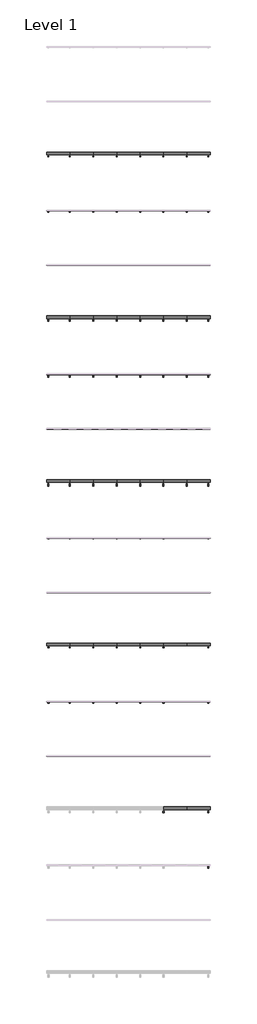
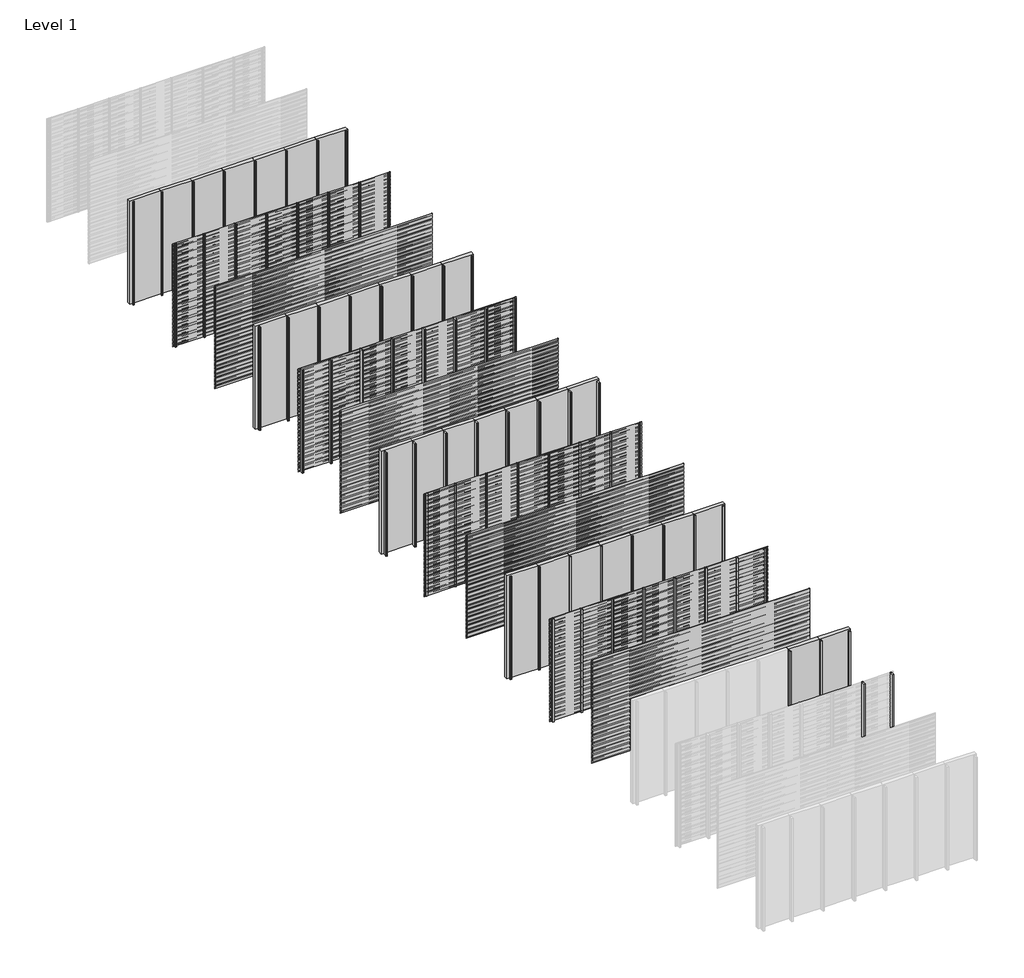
# One storey, part 2 of 96: 69 members, 62 plates.
"""IFC4 building model written with IfcOpenShell, lengths in millimetres."""

from ifc_helpers import new_model, si_unit, origin, origin_with_axes, place, context, project, spatial, polyline, outline, extrude, transform, mapped, element, save
from components import rectangular_mullion_e1f482b2, rectangular_mullion_21e3ddae, rectangular_mullion_fb497acc, rectangular_mullion_3facce28, rectangular_mullion_6cf2c509, rectangular_mullion_8b77bd57, rectangular_mullion_146f339b, rectangular_mullion_aa1047c5, rectangular_mullion_c2c7736a, rectangular_mullion_35b0a916, rectangular_mullion_bd250e2e, rectangular_mullion_7b49c8f1, rectangular_mullion_2b84ad7e, rectangular_mullion_0fd695e7, rectangular_mullion_9b796d85, rectangular_mullion_dfb17e98, rectangular_mullion_8f153c19, empty_system_panel_empty_5c9cbeb2

model = new_model("IFC4")

# Units and contexts
model_context = context("Model", 3, world=origin())
ifc_project = project(units=[si_unit("LENGTHUNIT", "METRE", prefix="MILLI")], contexts=[model_context])

# Site, building, storey
site = spatial("IfcSite", under=ifc_project)
building = spatial("IfcBuilding", under=site)
storey = spatial("IfcBuildingStorey", under=building, Name="Level 1", Elevation=0.0)

# Members
placement = place(None, origin())
rectangular_mullion_shape = rectangular_mullion_e1f482b2(model_context)
element("IfcMember", 1, ObjectType="Rectangular Mullion : NLRS_21_CWM_drager LD.0195_Storax", at=placement, inside=storey, context=model_context, shape_type="MappedRepresentation", body=[
    mapped(rectangular_mullion_shape, transform((5142.8571429, -10000.0, 0.0), x_axis=(-1.0, 0.0, 0.0), y_axis=(0.0, 1.0, 0.0), z_axis=(0.0, 0.0, -1.0))),
])
element("IfcMember", 2, ObjectType="Rectangular Mullion : NLRS_21_CWM_drager LD.0195_Storax", at=placement, inside=storey, context=model_context, shape_type="MappedRepresentation", body=[
    mapped(rectangular_mullion_shape, transform((4285.7142857, -10000.0, 0.0), x_axis=(-1.0, 0.0, 0.0), y_axis=(0.0, 1.0, 0.0), z_axis=(0.0, 0.0, -1.0))),
])
element("IfcMember", 3, ObjectType="Rectangular Mullion : NLRS_21_CWM_drager LD.0195_Storax", at=placement, inside=storey, context=model_context, shape_type="MappedRepresentation", body=[
    mapped(rectangular_mullion_shape, transform((3428.5714286, -10000.0, 0.0), x_axis=(-1.0, 0.0, 0.0), y_axis=(0.0, 1.0, 0.0), z_axis=(0.0, 0.0, -1.0))),
])
element("IfcMember", 4, ObjectType="Rectangular Mullion : NLRS_21_CWM_drager LD.0195_Storax", at=placement, inside=storey, context=model_context, shape_type="MappedRepresentation", body=[
    mapped(rectangular_mullion_shape, transform((2571.4285714, -10000.0, 0.0), x_axis=(-1.0, 0.0, 0.0), y_axis=(0.0, 1.0, 0.0), z_axis=(0.0, 0.0, -1.0))),
])
element("IfcMember", 5, ObjectType="Rectangular Mullion : NLRS_21_CWM_drager LD.0195_Storax", at=placement, inside=storey, context=model_context, shape_type="MappedRepresentation", body=[
    mapped(rectangular_mullion_shape, transform((1714.2857143, -10000.0, 0.0), x_axis=(-1.0, 0.0, 0.0), y_axis=(0.0, 1.0, 0.0), z_axis=(0.0, 0.0, -1.0))),
])
element("IfcMember", 6, ObjectType="Rectangular Mullion : NLRS_21_CWM_drager LD.0195_Storax", at=placement, inside=storey, context=model_context, shape_type="MappedRepresentation", body=[
    mapped(rectangular_mullion_shape, transform((857.1428571, -10000.0, 0.0), x_axis=(-1.0, 0.0, 0.0), y_axis=(0.0, 1.0, 0.0), z_axis=(0.0, 0.0, -1.0))),
])
rectangular_mullion_2_shape = rectangular_mullion_21e3ddae(model_context)
element("IfcMember", 7, ObjectType="Rectangular Mullion : NLRS_21_CWM_drager LD.0460_Storax", at=placement, inside=storey, context=model_context, shape_type="MappedRepresentation", body=[
    mapped(rectangular_mullion_2_shape, transform((5142.8571429, -12000.0, 0.0), x_axis=(-1.0, 0.0, 0.0), y_axis=(0.0, 1.0, 0.0), z_axis=(0.0, 0.0, -1.0))),
])
element("IfcMember", 8, ObjectType="Rectangular Mullion : NLRS_21_CWM_drager LD.0460_Storax", at=placement, inside=storey, context=model_context, shape_type="MappedRepresentation", body=[
    mapped(rectangular_mullion_2_shape, transform((4285.7142857, -12000.0, 0.0), x_axis=(-1.0, 0.0, 0.0), y_axis=(0.0, 1.0, 0.0), z_axis=(0.0, 0.0, -1.0))),
])
element("IfcMember", 9, ObjectType="Rectangular Mullion : NLRS_21_CWM_drager LD.0460_Storax", at=placement, inside=storey, context=model_context, shape_type="MappedRepresentation", body=[
    mapped(rectangular_mullion_2_shape, transform((3428.5714286, -12000.0, 0.0), x_axis=(-1.0, 0.0, 0.0), y_axis=(0.0, 1.0, 0.0), z_axis=(0.0, 0.0, -1.0))),
])
element("IfcMember", 10, ObjectType="Rectangular Mullion : NLRS_21_CWM_drager LD.0460_Storax", at=placement, inside=storey, context=model_context, shape_type="MappedRepresentation", body=[
    mapped(rectangular_mullion_2_shape, transform((2571.4285714, -12000.0, 0.0), x_axis=(-1.0, 0.0, 0.0), y_axis=(0.0, 1.0, 0.0), z_axis=(0.0, 0.0, -1.0))),
])
element("IfcMember", 11, ObjectType="Rectangular Mullion : NLRS_21_CWM_drager LD.0460_Storax", at=placement, inside=storey, context=model_context, shape_type="MappedRepresentation", body=[
    mapped(rectangular_mullion_2_shape, transform((1714.2857143, -12000.0, 0.0), x_axis=(-1.0, 0.0, 0.0), y_axis=(0.0, 1.0, 0.0), z_axis=(0.0, 0.0, -1.0))),
])
element("IfcMember", 12, ObjectType="Rectangular Mullion : NLRS_21_CWM_drager LD.0460_Storax", at=placement, inside=storey, context=model_context, shape_type="MappedRepresentation", body=[
    mapped(rectangular_mullion_2_shape, transform((857.1428571, -12000.0, 0.0), x_axis=(-1.0, 0.0, 0.0), y_axis=(0.0, 1.0, 0.0), z_axis=(0.0, 0.0, -1.0))),
])
element("IfcMember", 13, ObjectType="Rectangular Mullion : NLRS_21_CWM_drager LD.0460_Storax", at=placement, inside=storey, context=model_context, shape_type="MappedRepresentation", body=[
    mapped(rectangular_mullion_2_shape, transform((5142.8571429, -16000.0, 0.0), x_axis=(-1.0, 0.0, 0.0), y_axis=(0.0, 1.0, 0.0), z_axis=(0.0, 0.0, -1.0))),
])
element("IfcMember", 14, ObjectType="Rectangular Mullion : NLRS_21_CWM_drager LD.0460_Storax", at=placement, inside=storey, context=model_context, shape_type="MappedRepresentation", body=[
    mapped(rectangular_mullion_2_shape, transform((4285.7142857, -16000.0, 0.0), x_axis=(-1.0, 0.0, 0.0), y_axis=(0.0, 1.0, 0.0), z_axis=(0.0, 0.0, -1.0))),
])
element("IfcMember", 15, ObjectType="Rectangular Mullion : NLRS_21_CWM_drager LD.0460_Storax", at=placement, inside=storey, context=model_context, shape_type="MappedRepresentation", body=[
    mapped(rectangular_mullion_2_shape, transform((3428.5714286, -16000.0, 0.0), x_axis=(-1.0, 0.0, 0.0), y_axis=(0.0, 1.0, 0.0), z_axis=(0.0, 0.0, -1.0))),
])
element("IfcMember", 16, ObjectType="Rectangular Mullion : NLRS_21_CWM_drager LD.0460_Storax", at=placement, inside=storey, context=model_context, shape_type="MappedRepresentation", body=[
    mapped(rectangular_mullion_2_shape, transform((2571.4285714, -16000.0, 0.0), x_axis=(-1.0, 0.0, 0.0), y_axis=(0.0, 1.0, 0.0), z_axis=(0.0, 0.0, -1.0))),
])
element("IfcMember", 17, ObjectType="Rectangular Mullion : NLRS_21_CWM_drager LD.0460_Storax", at=placement, inside=storey, context=model_context, shape_type="MappedRepresentation", body=[
    mapped(rectangular_mullion_2_shape, transform((1714.2857143, -16000.0, 0.0), x_axis=(-1.0, 0.0, 0.0), y_axis=(0.0, 1.0, 0.0), z_axis=(0.0, 0.0, -1.0))),
])
element("IfcMember", 18, ObjectType="Rectangular Mullion : NLRS_21_CWM_drager LD.0460_Storax", at=placement, inside=storey, context=model_context, shape_type="MappedRepresentation", body=[
    mapped(rectangular_mullion_2_shape, transform((857.1428571, -16000.0, 0.0), x_axis=(-1.0, 0.0, 0.0), y_axis=(0.0, 1.0, 0.0), z_axis=(0.0, 0.0, -1.0))),
])
rectangular_mullion_3_shape = rectangular_mullion_fb497acc(model_context)
element("IfcMember", 19, ObjectType="Rectangular Mullion : NLRS_21_CWM_drager LD.0995_Storax", at=placement, inside=storey, context=model_context, shape_type="MappedRepresentation", body=[
    mapped(rectangular_mullion_3_shape, transform((5142.8571429, -18000.0, 0.0), x_axis=(-1.0, 0.0, 0.0), y_axis=(0.0, 1.0, 0.0), z_axis=(0.0, 0.0, -1.0))),
])
element("IfcMember", 20, ObjectType="Rectangular Mullion : NLRS_21_CWM_drager LD.0995_Storax", at=placement, inside=storey, context=model_context, shape_type="MappedRepresentation", body=[
    mapped(rectangular_mullion_3_shape, transform((4285.7142857, -18000.0, 0.0), x_axis=(-1.0, 0.0, 0.0), y_axis=(0.0, 1.0, 0.0), z_axis=(0.0, 0.0, -1.0))),
])
element("IfcMember", 21, ObjectType="Rectangular Mullion : NLRS_21_CWM_drager LD.0995_Storax", at=placement, inside=storey, context=model_context, shape_type="MappedRepresentation", body=[
    mapped(rectangular_mullion_3_shape, transform((3428.5714286, -18000.0, 0.0), x_axis=(-1.0, 0.0, 0.0), y_axis=(0.0, 1.0, 0.0), z_axis=(0.0, 0.0, -1.0))),
])
element("IfcMember", 22, ObjectType="Rectangular Mullion : NLRS_21_CWM_drager LD.0995_Storax", at=placement, inside=storey, context=model_context, shape_type="MappedRepresentation", body=[
    mapped(rectangular_mullion_3_shape, transform((2571.4285714, -18000.0, 0.0), x_axis=(-1.0, 0.0, 0.0), y_axis=(0.0, 1.0, 0.0), z_axis=(0.0, 0.0, -1.0))),
])
element("IfcMember", 23, ObjectType="Rectangular Mullion : NLRS_21_CWM_drager LD.0995_Storax", at=placement, inside=storey, context=model_context, shape_type="MappedRepresentation", body=[
    mapped(rectangular_mullion_3_shape, transform((1714.2857143, -18000.0, 0.0), x_axis=(-1.0, 0.0, 0.0), y_axis=(0.0, 1.0, 0.0), z_axis=(0.0, 0.0, -1.0))),
])
element("IfcMember", 24, ObjectType="Rectangular Mullion : NLRS_21_CWM_drager LD.0995_Storax", at=placement, inside=storey, context=model_context, shape_type="MappedRepresentation", body=[
    mapped(rectangular_mullion_3_shape, transform((857.1428571, -18000.0, 0.0), x_axis=(-1.0, 0.0, 0.0), y_axis=(0.0, 1.0, 0.0), z_axis=(0.0, 0.0, -1.0))),
])
element("IfcMember", 25, ObjectType="Rectangular Mullion : NLRS_21_CWM_drager LD.0995_Storax", at=placement, inside=storey, context=model_context, shape_type="MappedRepresentation", body=[
    mapped(rectangular_mullion_3_shape, transform((5142.8571429, -22000.0, 0.0), x_axis=(-1.0, 0.0, 0.0), y_axis=(0.0, 1.0, 0.0), z_axis=(0.0, 0.0, -1.0))),
])
element("IfcMember", 26, ObjectType="Rectangular Mullion : NLRS_21_CWM_drager LD.0995_Storax", at=placement, inside=storey, context=model_context, shape_type="MappedRepresentation", body=[
    mapped(rectangular_mullion_3_shape, transform((4285.7142857, -22000.0, 0.0), x_axis=(-1.0, 0.0, 0.0), y_axis=(0.0, 1.0, 0.0), z_axis=(0.0, 0.0, -1.0))),
])
element("IfcMember", 27, ObjectType="Rectangular Mullion : NLRS_21_CWM_drager LD.0995_Storax", at=placement, inside=storey, context=model_context, shape_type="MappedRepresentation", body=[
    mapped(rectangular_mullion_3_shape, transform((3428.5714286, -22000.0, 0.0), x_axis=(-1.0, 0.0, 0.0), y_axis=(0.0, 1.0, 0.0), z_axis=(0.0, 0.0, -1.0))),
])
element("IfcMember", 28, ObjectType="Rectangular Mullion : NLRS_21_CWM_drager LD.0995_Storax", at=placement, inside=storey, context=model_context, shape_type="MappedRepresentation", body=[
    mapped(rectangular_mullion_3_shape, transform((2571.4285714, -22000.0, 0.0), x_axis=(-1.0, 0.0, 0.0), y_axis=(0.0, 1.0, 0.0), z_axis=(0.0, 0.0, -1.0))),
])
element("IfcMember", 29, ObjectType="Rectangular Mullion : NLRS_21_CWM_drager LD.0995_Storax", at=placement, inside=storey, context=model_context, shape_type="MappedRepresentation", body=[
    mapped(rectangular_mullion_3_shape, transform((1714.2857143, -22000.0, 0.0), x_axis=(-1.0, 0.0, 0.0), y_axis=(0.0, 1.0, 0.0), z_axis=(0.0, 0.0, -1.0))),
])
element("IfcMember", 30, ObjectType="Rectangular Mullion : NLRS_21_CWM_drager LD.0995_Storax", at=placement, inside=storey, context=model_context, shape_type="MappedRepresentation", body=[
    mapped(rectangular_mullion_3_shape, transform((857.1428571, -22000.0, 0.0), x_axis=(-1.0, 0.0, 0.0), y_axis=(0.0, 1.0, 0.0), z_axis=(0.0, 0.0, -1.0))),
])
rectangular_mullion_4_shape = rectangular_mullion_3facce28(model_context)
element("IfcMember", 31, ObjectType="Rectangular Mullion : NLRS_21_CWM_drager SD.014_Storax", at=placement, inside=storey, context=model_context, shape_type="MappedRepresentation", body=[
    mapped(rectangular_mullion_4_shape, transform((5142.8571429, -24000.0, 0.0), x_axis=(-1.0, 0.0, 0.0), y_axis=(0.0, 1.0, 0.0), z_axis=(0.0, 0.0, -1.0))),
])
element("IfcMember", 32, ObjectType="Rectangular Mullion : NLRS_21_CWM_drager SD.014_Storax", at=placement, inside=storey, context=model_context, shape_type="MappedRepresentation", body=[
    mapped(rectangular_mullion_4_shape, transform((4285.7142857, -24000.0, 0.0), x_axis=(-1.0, 0.0, 0.0), y_axis=(0.0, 1.0, 0.0), z_axis=(0.0, 0.0, -1.0))),
])
element("IfcMember", 33, ObjectType="Rectangular Mullion : NLRS_21_CWM_drager SD.014_Storax", at=placement, inside=storey, context=model_context, shape_type="MappedRepresentation", body=[
    mapped(rectangular_mullion_4_shape, transform((3428.5714286, -24000.0, 0.0), x_axis=(-1.0, 0.0, 0.0), y_axis=(0.0, 1.0, 0.0), z_axis=(0.0, 0.0, -1.0))),
])
element("IfcMember", 34, ObjectType="Rectangular Mullion : NLRS_21_CWM_drager SD.014_Storax", at=placement, inside=storey, context=model_context, shape_type="MappedRepresentation", body=[
    mapped(rectangular_mullion_4_shape, transform((2571.4285714, -24000.0, 0.0), x_axis=(-1.0, 0.0, 0.0), y_axis=(0.0, 1.0, 0.0), z_axis=(0.0, 0.0, -1.0))),
])
element("IfcMember", 35, ObjectType="Rectangular Mullion : NLRS_21_CWM_drager SD.014_Storax", at=placement, inside=storey, context=model_context, shape_type="MappedRepresentation", body=[
    mapped(rectangular_mullion_4_shape, transform((1714.2857143, -24000.0, 0.0), x_axis=(-1.0, 0.0, 0.0), y_axis=(0.0, 1.0, 0.0), z_axis=(0.0, 0.0, -1.0))),
])
element("IfcMember", 36, ObjectType="Rectangular Mullion : NLRS_21_CWM_drager SD.014_Storax", at=placement, inside=storey, context=model_context, shape_type="MappedRepresentation", body=[
    mapped(rectangular_mullion_4_shape, transform((857.1428571, -24000.0, 0.0), x_axis=(-1.0, 0.0, 0.0), y_axis=(0.0, 1.0, 0.0), z_axis=(0.0, 0.0, -1.0))),
])
element("IfcMember", 37, ObjectType="Rectangular Mullion : NLRS_21_CWM_drager SD.014_Storax", at=placement, inside=storey, context=model_context, shape_type="MappedRepresentation", body=[
    mapped(rectangular_mullion_4_shape, transform((5142.8571429, -28000.0, 0.0), x_axis=(-1.0, 0.0, 0.0), y_axis=(0.0, 1.0, 0.0), z_axis=(0.0, 0.0, -1.0))),
])
element("IfcMember", 38, ObjectType="Rectangular Mullion : NLRS_21_CWM_drager SD.014_Storax", at=placement, inside=storey, context=model_context, shape_type="MappedRepresentation", body=[
    mapped(rectangular_mullion_4_shape, transform((4285.7142857, -28000.0, 0.0), x_axis=(-1.0, 0.0, 0.0), y_axis=(0.0, 1.0, 0.0), z_axis=(0.0, 0.0, -1.0))),
])
element("IfcMember", 39, ObjectType="Rectangular Mullion : NLRS_21_CWM_drager SD.014_Storax", at=placement, inside=storey, context=model_context, shape_type="MappedRepresentation", body=[
    mapped(rectangular_mullion_4_shape, transform((3428.5714286, -28000.0, 0.0), x_axis=(-1.0, 0.0, 0.0), y_axis=(0.0, 1.0, 0.0), z_axis=(0.0, 0.0, -1.0))),
])
element("IfcMember", 40, ObjectType="Rectangular Mullion : NLRS_21_CWM_drager SD.014_Storax", at=placement, inside=storey, context=model_context, shape_type="MappedRepresentation", body=[
    mapped(rectangular_mullion_4_shape, transform((2571.4285714, -28000.0, 0.0), x_axis=(-1.0, 0.0, 0.0), y_axis=(0.0, 1.0, 0.0), z_axis=(0.0, 0.0, -1.0))),
])
element("IfcMember", 41, ObjectType="Rectangular Mullion : NLRS_21_CWM_drager SD.014_Storax", at=placement, inside=storey, context=model_context, shape_type="MappedRepresentation", body=[
    mapped(rectangular_mullion_4_shape, transform((1714.2857143, -28000.0, 0.0), x_axis=(-1.0, 0.0, 0.0), y_axis=(0.0, 1.0, 0.0), z_axis=(0.0, 0.0, -1.0))),
])
element("IfcMember", 42, ObjectType="Rectangular Mullion : NLRS_21_CWM_drager SD.014_Storax", at=placement, inside=storey, context=model_context, shape_type="MappedRepresentation", body=[
    mapped(rectangular_mullion_4_shape, transform((857.1428571, -28000.0, 0.0), x_axis=(-1.0, 0.0, 0.0), y_axis=(0.0, 1.0, 0.0), z_axis=(0.0, 0.0, -1.0))),
])
rectangular_mullion_5_shape = rectangular_mullion_6cf2c509(model_context)
element("IfcMember", 43, ObjectType="Rectangular Mullion : NLRS_21_CWM_drager SD.054_Storax", at=placement, inside=storey, context=model_context, shape_type="MappedRepresentation", body=[
    mapped(rectangular_mullion_5_shape, transform((5142.8571429, -30000.0, 0.0), x_axis=(-1.0, 0.0, 0.0), y_axis=(0.0, 1.0, 0.0), z_axis=(0.0, 0.0, -1.0))),
])
element("IfcMember", 44, ObjectType="Rectangular Mullion : NLRS_21_CWM_drager SD.054_Storax", at=placement, inside=storey, context=model_context, shape_type="MappedRepresentation", body=[
    mapped(rectangular_mullion_5_shape, transform((4285.7142857, -30000.0, 0.0), x_axis=(-1.0, 0.0, 0.0), y_axis=(0.0, 1.0, 0.0), z_axis=(0.0, 0.0, -1.0))),
])
element("IfcMember", 45, ObjectType="Rectangular Mullion : NLRS_21_CWM_drager SD.054_Storax", at=placement, inside=storey, context=model_context, shape_type="MappedRepresentation", body=[
    mapped(rectangular_mullion_5_shape, transform((3428.5714286, -30000.0, 0.0), x_axis=(-1.0, 0.0, 0.0), y_axis=(0.0, 1.0, 0.0), z_axis=(0.0, 0.0, -1.0))),
])
element("IfcMember", 46, ObjectType="Rectangular Mullion : NLRS_21_CWM_drager SD.054_Storax", at=placement, inside=storey, context=model_context, shape_type="MappedRepresentation", body=[
    mapped(rectangular_mullion_5_shape, transform((2571.4285714, -30000.0, 0.0), x_axis=(-1.0, 0.0, 0.0), y_axis=(0.0, 1.0, 0.0), z_axis=(0.0, 0.0, -1.0))),
])
element("IfcMember", 47, ObjectType="Rectangular Mullion : NLRS_21_CWM_drager SD.054_Storax", at=placement, inside=storey, context=model_context, shape_type="MappedRepresentation", body=[
    mapped(rectangular_mullion_5_shape, transform((1714.2857143, -30000.0, 0.0), x_axis=(-1.0, 0.0, 0.0), y_axis=(0.0, 1.0, 0.0), z_axis=(0.0, 0.0, -1.0))),
])
element("IfcMember", 48, ObjectType="Rectangular Mullion : NLRS_21_CWM_drager SD.054_Storax", at=placement, inside=storey, context=model_context, shape_type="MappedRepresentation", body=[
    mapped(rectangular_mullion_5_shape, transform((857.1428571, -30000.0, 0.0), x_axis=(-1.0, 0.0, 0.0), y_axis=(0.0, 1.0, 0.0), z_axis=(0.0, 0.0, -1.0))),
])
element("IfcMember", 49, ObjectType="Rectangular Mullion : NLRS_21_CWM_drager SD.054_Storax", at=placement, inside=storey, context=model_context, shape_type="MappedRepresentation", body=[
    mapped(rectangular_mullion_5_shape, transform((5142.8571429, -34000.0, 0.0), x_axis=(-1.0, 0.0, 0.0), y_axis=(0.0, 1.0, 0.0), z_axis=(0.0, 0.0, -1.0))),
])
element("IfcMember", 50, ObjectType="Rectangular Mullion : NLRS_21_CWM_drager SD.054_Storax", at=placement, inside=storey, context=model_context, shape_type="MappedRepresentation", body=[
    mapped(rectangular_mullion_5_shape, transform((4285.7142857, -34000.0, 0.0), x_axis=(-1.0, 0.0, 0.0), y_axis=(0.0, 1.0, 0.0), z_axis=(0.0, 0.0, -1.0))),
])
rectangular_mullion_6_shape = rectangular_mullion_8b77bd57(model_context)
element("IfcMember", 51, ObjectType="Rectangular Mullion : NLRS_21_CWM_drager SD.100_Storax", at=placement, inside=storey, context=model_context, shape_type="MappedRepresentation", body=[
    mapped(rectangular_mullion_6_shape, transform((5142.8571429, -36000.0, 0.0), x_axis=(-1.0, 0.0, 0.0), y_axis=(0.0, 1.0, 0.0), z_axis=(0.0, 0.0, -1.0))),
])
rectangular_mullion_7_shape = rectangular_mullion_146f339b(model_context)
element("IfcMember", 52, ObjectType="Rectangular Mullion : NLRS_21_CWM_drager LD.0195 - links_Storax", at=placement, inside=storey, context=model_context, shape_type="MappedRepresentation", body=[
    mapped(rectangular_mullion_7_shape, transform((0.0, -10000.0, 0.0), x_axis=(-1.0, 0.0, 0.0), y_axis=(0.0, 1.0, 0.0), z_axis=(0.0, 0.0, -1.0))),
])
rectangular_mullion_8_shape = rectangular_mullion_aa1047c5(model_context)
element("IfcMember", 53, ObjectType="Rectangular Mullion : NLRS_21_CWM_drager LD.0195 - rechts_Storax", at=placement, inside=storey, context=model_context, shape_type="MappedRepresentation", body=[
    mapped(rectangular_mullion_8_shape, transform((6000.0, -10000.0, 3000.0), x_axis=(1.0, 0.0, 0.0), y_axis=(0.0, 1.0, 0.0), z_axis=(0.0, 0.0, 1.0))),
])
rectangular_mullion_9_shape = rectangular_mullion_c2c7736a(model_context)
element("IfcMember", 54, ObjectType="Rectangular Mullion : NLRS_21_CWM_drager LD.0460 - links_Storax", at=placement, inside=storey, context=model_context, shape_type="MappedRepresentation", body=[
    mapped(rectangular_mullion_9_shape, transform((0.0, -12000.0, 0.0), x_axis=(-1.0, 0.0, 0.0), y_axis=(0.0, 1.0, 0.0), z_axis=(0.0, 0.0, -1.0))),
])
element("IfcMember", 55, ObjectType="Rectangular Mullion : NLRS_21_CWM_drager LD.0460 - links_Storax", at=placement, inside=storey, context=model_context, shape_type="MappedRepresentation", body=[
    mapped(rectangular_mullion_9_shape, transform((0.0, -16000.0, 0.0), x_axis=(-1.0, 0.0, 0.0), y_axis=(0.0, 1.0, 0.0), z_axis=(0.0, 0.0, -1.0))),
])
rectangular_mullion_10_shape = rectangular_mullion_35b0a916(model_context)
element("IfcMember", 56, ObjectType="Rectangular Mullion : NLRS_21_CWM_drager LD.0460 - rechts_Storax", at=placement, inside=storey, context=model_context, shape_type="MappedRepresentation", body=[
    mapped(rectangular_mullion_10_shape, transform((6000.0, -12000.0, 3000.0), x_axis=(1.0, 0.0, 0.0), y_axis=(0.0, 1.0, 0.0), z_axis=(0.0, 0.0, 1.0))),
])
element("IfcMember", 57, ObjectType="Rectangular Mullion : NLRS_21_CWM_drager LD.0460 - rechts_Storax", at=placement, inside=storey, context=model_context, shape_type="MappedRepresentation", body=[
    mapped(rectangular_mullion_10_shape, transform((6000.0, -16000.0, 3000.0), x_axis=(1.0, 0.0, 0.0), y_axis=(0.0, 1.0, 0.0), z_axis=(0.0, 0.0, 1.0))),
])
rectangular_mullion_11_shape = rectangular_mullion_bd250e2e(model_context)
element("IfcMember", 58, ObjectType="Rectangular Mullion : NLRS_21_CWM_drager LD.0995 - links_Storax", at=placement, inside=storey, context=model_context, shape_type="MappedRepresentation", body=[
    mapped(rectangular_mullion_11_shape, transform((0.0, -18000.0, 0.0), x_axis=(-1.0, 0.0, 0.0), y_axis=(0.0, 1.0, 0.0), z_axis=(0.0, 0.0, -1.0))),
])
element("IfcMember", 59, ObjectType="Rectangular Mullion : NLRS_21_CWM_drager LD.0995 - links_Storax", at=placement, inside=storey, context=model_context, shape_type="MappedRepresentation", body=[
    mapped(rectangular_mullion_11_shape, transform((0.0, -22000.0, 0.0), x_axis=(-1.0, 0.0, 0.0), y_axis=(0.0, 1.0, 0.0), z_axis=(0.0, 0.0, -1.0))),
])
rectangular_mullion_12_shape = rectangular_mullion_7b49c8f1(model_context)
element("IfcMember", 60, ObjectType="Rectangular Mullion : NLRS_21_CWM_drager LD.0995 - rechts_Storax", at=placement, inside=storey, context=model_context, shape_type="MappedRepresentation", body=[
    mapped(rectangular_mullion_12_shape, transform((6000.0, -18000.0, 3000.0), x_axis=(1.0, 0.0, 0.0), y_axis=(0.0, 1.0, 0.0), z_axis=(0.0, 0.0, 1.0))),
])
element("IfcMember", 61, ObjectType="Rectangular Mullion : NLRS_21_CWM_drager LD.0995 - rechts_Storax", at=placement, inside=storey, context=model_context, shape_type="MappedRepresentation", body=[
    mapped(rectangular_mullion_12_shape, transform((6000.0, -22000.0, 3000.0), x_axis=(1.0, 0.0, 0.0), y_axis=(0.0, 1.0, 0.0), z_axis=(0.0, 0.0, 1.0))),
])
rectangular_mullion_13_shape = rectangular_mullion_2b84ad7e(model_context)
element("IfcMember", 62, ObjectType="Rectangular Mullion : NLRS_21_CWM_drager SD.014 - links_Storax", at=placement, inside=storey, context=model_context, shape_type="MappedRepresentation", body=[
    mapped(rectangular_mullion_13_shape, transform((0.0, -24000.0, 0.0), x_axis=(-1.0, 0.0, 0.0), y_axis=(0.0, 1.0, 0.0), z_axis=(0.0, 0.0, -1.0))),
])
element("IfcMember", 63, ObjectType="Rectangular Mullion : NLRS_21_CWM_drager SD.014 - links_Storax", at=placement, inside=storey, context=model_context, shape_type="MappedRepresentation", body=[
    mapped(rectangular_mullion_13_shape, transform((0.0, -28000.0, 0.0), x_axis=(-1.0, 0.0, 0.0), y_axis=(0.0, 1.0, 0.0), z_axis=(0.0, 0.0, -1.0))),
])
rectangular_mullion_14_shape = rectangular_mullion_0fd695e7(model_context)
element("IfcMember", 64, ObjectType="Rectangular Mullion : NLRS_21_CWM_drager SD.014 - rechts_Storax", at=placement, inside=storey, context=model_context, shape_type="MappedRepresentation", body=[
    mapped(rectangular_mullion_14_shape, transform((6000.0, -24000.0, 3000.0), x_axis=(1.0, 0.0, 0.0), y_axis=(0.0, 1.0, 0.0), z_axis=(0.0, 0.0, 1.0))),
])
element("IfcMember", 65, ObjectType="Rectangular Mullion : NLRS_21_CWM_drager SD.014 - rechts_Storax", at=placement, inside=storey, context=model_context, shape_type="MappedRepresentation", body=[
    mapped(rectangular_mullion_14_shape, transform((6000.0, -28000.0, 3000.0), x_axis=(1.0, 0.0, 0.0), y_axis=(0.0, 1.0, 0.0), z_axis=(0.0, 0.0, 1.0))),
])
rectangular_mullion_15_shape = rectangular_mullion_9b796d85(model_context)
element("IfcMember", 66, ObjectType="Rectangular Mullion : NLRS_21_CWM_drager SD.054 - links_Storax", at=placement, inside=storey, context=model_context, shape_type="MappedRepresentation", body=[
    mapped(rectangular_mullion_15_shape, transform((0.0, -30000.0, 0.0), x_axis=(-1.0, 0.0, 0.0), y_axis=(0.0, 1.0, 0.0), z_axis=(0.0, 0.0, -1.0))),
])
rectangular_mullion_16_shape = rectangular_mullion_dfb17e98(model_context)
element("IfcMember", 67, ObjectType="Rectangular Mullion : NLRS_21_CWM_drager SD.054 - rechts_Storax", at=placement, inside=storey, context=model_context, shape_type="MappedRepresentation", body=[
    mapped(rectangular_mullion_16_shape, transform((6000.0, -30000.0, 3000.0), x_axis=(1.0, 0.0, 0.0), y_axis=(0.0, 1.0, 0.0), z_axis=(0.0, 0.0, 1.0))),
])
element("IfcMember", 68, ObjectType="Rectangular Mullion : NLRS_21_CWM_drager SD.054 - rechts_Storax", at=placement, inside=storey, context=model_context, shape_type="MappedRepresentation", body=[
    mapped(rectangular_mullion_16_shape, transform((6000.0, -34000.0, 3000.0), x_axis=(1.0, 0.0, 0.0), y_axis=(0.0, 1.0, 0.0), z_axis=(0.0, 0.0, 1.0))),
])
rectangular_mullion_17_shape = rectangular_mullion_8f153c19(model_context)
element("IfcMember", 69, ObjectType="Rectangular Mullion : NLRS_21_CWM_drager SD.100 - rechts_Storax", at=placement, inside=storey, context=model_context, shape_type="MappedRepresentation", body=[
    mapped(rectangular_mullion_17_shape, transform((6000.0, -36000.0, 3000.0), x_axis=(1.0, 0.0, 0.0), y_axis=(0.0, 1.0, 0.0), z_axis=(0.0, 0.0, 1.0))),
])

# Plates
element("IfcPlate", 70, ObjectType="NLRS_21_WA_lamellenwand Linius - L.033.08_Storax", at=placement, inside=storey, context=model_context, shape_type="SweptSolid", body=[
    extrude(outline(polyline([(0.0, -11999.0), (857.1428571, -11999.0), (857.1428571, -12001.0), (0.0, -12001.0), (0.0, -11999.0)])), origin_with_axes(), (0.0, 0.0, 1.0), 3000.0),
])
element("IfcPlate", 71, ObjectType="NLRS_21_WA_lamellenwand Linius - L.033.08_Storax", at=placement, inside=storey, context=model_context, shape_type="SweptSolid", body=[
    extrude(outline(polyline([(857.1428571, -11999.0), (1714.2857143, -11999.0), (1714.2857143, -12001.0), (857.1428571, -12001.0), (857.1428571, -11999.0)])), origin_with_axes(), (0.0, 0.0, 1.0), 3000.0),
])
element("IfcPlate", 72, ObjectType="NLRS_21_WA_lamellenwand Linius - L.033.08_Storax", at=placement, inside=storey, context=model_context, shape_type="SweptSolid", body=[
    extrude(outline(polyline([(1714.2857143, -11999.0), (2571.4285714, -11999.0), (2571.4285714, -12001.0), (1714.2857143, -12001.0), (1714.2857143, -11999.0)])), origin_with_axes(), (0.0, 0.0, 1.0), 3000.0),
])
element("IfcPlate", 73, ObjectType="NLRS_21_WA_lamellenwand Linius - L.033.08_Storax", at=placement, inside=storey, context=model_context, shape_type="SweptSolid", body=[
    extrude(outline(polyline([(2571.4285714, -11999.0), (3428.5714286, -11999.0), (3428.5714286, -12001.0), (2571.4285714, -12001.0), (2571.4285714, -11999.0)])), origin_with_axes(), (0.0, 0.0, 1.0), 3000.0),
])
element("IfcPlate", 74, ObjectType="NLRS_21_WA_lamellenwand Linius - L.033.08_Storax", at=placement, inside=storey, context=model_context, shape_type="SweptSolid", body=[
    extrude(outline(polyline([(3428.5714286, -11999.0), (4285.7142857, -11999.0), (4285.7142857, -12001.0), (3428.5714286, -12001.0), (3428.5714286, -11999.0)])), origin_with_axes(), (0.0, 0.0, 1.0), 3000.0),
])
element("IfcPlate", 75, ObjectType="NLRS_21_WA_lamellenwand Linius - L.033.08_Storax", at=placement, inside=storey, context=model_context, shape_type="SweptSolid", body=[
    extrude(outline(polyline([(4285.7142857, -11999.0), (5142.8571429, -11999.0), (5142.8571429, -12001.0), (4285.7142857, -12001.0), (4285.7142857, -11999.0)])), origin_with_axes(), (0.0, 0.0, 1.0), 3000.0),
])
element("IfcPlate", 76, ObjectType="NLRS_21_WA_lamellenwand Linius - L.033.08_Storax", at=placement, inside=storey, context=model_context, shape_type="SweptSolid", body=[
    extrude(outline(polyline([(5142.8571429, -11999.0), (6000.0, -11999.0), (6000.0, -12001.0), (5142.8571429, -12001.0), (5142.8571429, -11999.0)])), origin_with_axes(), (0.0, 0.0, 1.0), 3000.0),
])
element("IfcPlate", 77, ObjectType="NLRS_21_WA_lamellenwand Linius - L.033.08_Storax", at=placement, inside=storey, context=model_context, shape_type="SweptSolid", body=[
    extrude(outline(polyline([(0.0, -13999.0), (6000.0, -13999.0), (6000.0, -14001.0), (0.0, -14001.0), (0.0, -13999.0)])), origin_with_axes(), (0.0, 0.0, 1.0), 3000.0),
])
element("IfcPlate", 78, ObjectType="NLRS_21_WA_lamellenwand Linius - L.033.08_Storax", at=placement, inside=storey, context=model_context, shape_type="SweptSolid", body=[
    extrude(outline(polyline([(0.0, -17999.0), (857.1428571, -17999.0), (857.1428571, -18001.0), (0.0, -18001.0), (0.0, -17999.0)])), origin_with_axes(), (0.0, 0.0, 1.0), 3000.0),
])
element("IfcPlate", 79, ObjectType="NLRS_21_WA_lamellenwand Linius - L.033.08_Storax", at=placement, inside=storey, context=model_context, shape_type="SweptSolid", body=[
    extrude(outline(polyline([(857.1428571, -17999.0), (1714.2857143, -17999.0), (1714.2857143, -18001.0), (857.1428571, -18001.0), (857.1428571, -17999.0)])), origin_with_axes(), (0.0, 0.0, 1.0), 3000.0),
])
element("IfcPlate", 80, ObjectType="NLRS_21_WA_lamellenwand Linius - L.033.08_Storax", at=placement, inside=storey, context=model_context, shape_type="SweptSolid", body=[
    extrude(outline(polyline([(1714.2857143, -17999.0), (2571.4285714, -17999.0), (2571.4285714, -18001.0), (1714.2857143, -18001.0), (1714.2857143, -17999.0)])), origin_with_axes(), (0.0, 0.0, 1.0), 3000.0),
])
element("IfcPlate", 81, ObjectType="NLRS_21_WA_lamellenwand Linius - L.033.08_Storax", at=placement, inside=storey, context=model_context, shape_type="SweptSolid", body=[
    extrude(outline(polyline([(2571.4285714, -17999.0), (3428.5714286, -17999.0), (3428.5714286, -18001.0), (2571.4285714, -18001.0), (2571.4285714, -17999.0)])), origin_with_axes(), (0.0, 0.0, 1.0), 3000.0),
])
element("IfcPlate", 82, ObjectType="NLRS_21_WA_lamellenwand Linius - L.033.08_Storax", at=placement, inside=storey, context=model_context, shape_type="SweptSolid", body=[
    extrude(outline(polyline([(3428.5714286, -17999.0), (4285.7142857, -17999.0), (4285.7142857, -18001.0), (3428.5714286, -18001.0), (3428.5714286, -17999.0)])), origin_with_axes(), (0.0, 0.0, 1.0), 3000.0),
])
element("IfcPlate", 83, ObjectType="NLRS_21_WA_lamellenwand Linius - L.033.08_Storax", at=placement, inside=storey, context=model_context, shape_type="SweptSolid", body=[
    extrude(outline(polyline([(4285.7142857, -17999.0), (5142.8571429, -17999.0), (5142.8571429, -18001.0), (4285.7142857, -18001.0), (4285.7142857, -17999.0)])), origin_with_axes(), (0.0, 0.0, 1.0), 3000.0),
])
element("IfcPlate", 84, ObjectType="NLRS_21_WA_lamellenwand Linius - L.033.08_Storax", at=placement, inside=storey, context=model_context, shape_type="SweptSolid", body=[
    extrude(outline(polyline([(5142.8571429, -17999.0), (6000.0, -17999.0), (6000.0, -18001.0), (5142.8571429, -18001.0), (5142.8571429, -17999.0)])), origin_with_axes(), (0.0, 0.0, 1.0), 3000.0),
])
element("IfcPlate", 85, ObjectType="NLRS_21_WA_lamellenwand Linius - L.033.08_Storax", at=placement, inside=storey, context=model_context, shape_type="SweptSolid", body=[
    extrude(outline(polyline([(0.0, -19999.0), (6000.0, -19999.0), (6000.0, -20001.0), (0.0, -20001.0), (0.0, -19999.0)])), origin_with_axes(), (0.0, 0.0, 1.0), 3000.0),
])
element("IfcPlate", 86, ObjectType="NLRS_21_WA_lamellenwand Linius - L.033.08_Storax", at=placement, inside=storey, context=model_context, shape_type="SweptSolid", body=[
    extrude(outline(polyline([(0.0, -23999.0), (857.1428571, -23999.0), (857.1428571, -24001.0), (0.0, -24001.0), (0.0, -23999.0)])), origin_with_axes(), (0.0, 0.0, 1.0), 3000.0),
])
element("IfcPlate", 87, ObjectType="NLRS_21_WA_lamellenwand Linius - L.033.08_Storax", at=placement, inside=storey, context=model_context, shape_type="SweptSolid", body=[
    extrude(outline(polyline([(857.1428571, -23999.0), (1714.2857143, -23999.0), (1714.2857143, -24001.0), (857.1428571, -24001.0), (857.1428571, -23999.0)])), origin_with_axes(), (0.0, 0.0, 1.0), 3000.0),
])
element("IfcPlate", 88, ObjectType="NLRS_21_WA_lamellenwand Linius - L.033.08_Storax", at=placement, inside=storey, context=model_context, shape_type="SweptSolid", body=[
    extrude(outline(polyline([(1714.2857143, -23999.0), (2571.4285714, -23999.0), (2571.4285714, -24001.0), (1714.2857143, -24001.0), (1714.2857143, -23999.0)])), origin_with_axes(), (0.0, 0.0, 1.0), 3000.0),
])
element("IfcPlate", 89, ObjectType="NLRS_21_WA_lamellenwand Linius - L.033.08_Storax", at=placement, inside=storey, context=model_context, shape_type="SweptSolid", body=[
    extrude(outline(polyline([(2571.4285714, -23999.0), (3428.5714286, -23999.0), (3428.5714286, -24001.0), (2571.4285714, -24001.0), (2571.4285714, -23999.0)])), origin_with_axes(), (0.0, 0.0, 1.0), 3000.0),
])
element("IfcPlate", 90, ObjectType="NLRS_21_WA_lamellenwand Linius - L.033.08_Storax", at=placement, inside=storey, context=model_context, shape_type="SweptSolid", body=[
    extrude(outline(polyline([(3428.5714286, -23999.0), (4285.7142857, -23999.0), (4285.7142857, -24001.0), (3428.5714286, -24001.0), (3428.5714286, -23999.0)])), origin_with_axes(), (0.0, 0.0, 1.0), 3000.0),
])
element("IfcPlate", 91, ObjectType="NLRS_21_WA_lamellenwand Linius - L.033.08_Storax", at=placement, inside=storey, context=model_context, shape_type="SweptSolid", body=[
    extrude(outline(polyline([(4285.7142857, -23999.0), (5142.8571429, -23999.0), (5142.8571429, -24001.0), (4285.7142857, -24001.0), (4285.7142857, -23999.0)])), origin_with_axes(), (0.0, 0.0, 1.0), 3000.0),
])
element("IfcPlate", 92, ObjectType="NLRS_21_WA_lamellenwand Linius - L.033.08_Storax", at=placement, inside=storey, context=model_context, shape_type="SweptSolid", body=[
    extrude(outline(polyline([(5142.8571429, -23999.0), (6000.0, -23999.0), (6000.0, -24001.0), (5142.8571429, -24001.0), (5142.8571429, -23999.0)])), origin_with_axes(), (0.0, 0.0, 1.0), 3000.0),
])
element("IfcPlate", 93, ObjectType="NLRS_21_WA_lamellenwand Linius - L.033.08_Storax", at=placement, inside=storey, context=model_context, shape_type="SweptSolid", body=[
    extrude(outline(polyline([(0.0, -25999.0), (6000.0, -25999.0), (6000.0, -26001.0), (0.0, -26001.0), (0.0, -25999.0)])), origin_with_axes(), (0.0, 0.0, 1.0), 3000.0),
])
element("IfcPlate", 94, ObjectType="NLRS_21_WA_lamellenwand Linius - L.033.08_Storax", at=placement, inside=storey, context=model_context, shape_type="SweptSolid", body=[
    extrude(outline(polyline([(0.0, -29999.0), (857.1428571, -29999.0), (857.1428571, -30001.0), (0.0, -30001.0), (0.0, -29999.0)])), origin_with_axes(), (0.0, 0.0, 1.0), 3000.0),
])
element("IfcPlate", 95, ObjectType="NLRS_21_WA_lamellenwand Linius - L.033.08_Storax", at=placement, inside=storey, context=model_context, shape_type="SweptSolid", body=[
    extrude(outline(polyline([(857.1428571, -29999.0), (1714.2857143, -29999.0), (1714.2857143, -30001.0), (857.1428571, -30001.0), (857.1428571, -29999.0)])), origin_with_axes(), (0.0, 0.0, 1.0), 3000.0),
])
element("IfcPlate", 96, ObjectType="NLRS_21_WA_lamellenwand Linius - L.033.08_Storax", at=placement, inside=storey, context=model_context, shape_type="SweptSolid", body=[
    extrude(outline(polyline([(1714.2857143, -29999.0), (2571.4285714, -29999.0), (2571.4285714, -30001.0), (1714.2857143, -30001.0), (1714.2857143, -29999.0)])), origin_with_axes(), (0.0, 0.0, 1.0), 3000.0),
])
element("IfcPlate", 97, ObjectType="NLRS_21_WA_lamellenwand Linius - L.033.08_Storax", at=placement, inside=storey, context=model_context, shape_type="SweptSolid", body=[
    extrude(outline(polyline([(2571.4285714, -29999.0), (3428.5714286, -29999.0), (3428.5714286, -30001.0), (2571.4285714, -30001.0), (2571.4285714, -29999.0)])), origin_with_axes(), (0.0, 0.0, 1.0), 3000.0),
])
element("IfcPlate", 98, ObjectType="NLRS_21_WA_lamellenwand Linius - L.033.08_Storax", at=placement, inside=storey, context=model_context, shape_type="SweptSolid", body=[
    extrude(outline(polyline([(3428.5714286, -29999.0), (4285.7142857, -29999.0), (4285.7142857, -30001.0), (3428.5714286, -30001.0), (3428.5714286, -29999.0)])), origin_with_axes(), (0.0, 0.0, 1.0), 3000.0),
])
element("IfcPlate", 99, ObjectType="NLRS_21_WA_lamellenwand Linius - L.033.08_Storax", at=placement, inside=storey, context=model_context, shape_type="SweptSolid", body=[
    extrude(outline(polyline([(4285.7142857, -29999.0), (5142.8571429, -29999.0), (5142.8571429, -30001.0), (4285.7142857, -30001.0), (4285.7142857, -29999.0)])), origin_with_axes(), (0.0, 0.0, 1.0), 3000.0),
])
element("IfcPlate", 100, ObjectType="NLRS_21_WA_lamellenwand Linius - L.033.08_Storax", at=placement, inside=storey, context=model_context, shape_type="SweptSolid", body=[
    extrude(outline(polyline([(5142.8571429, -29999.0), (6000.0, -29999.0), (6000.0, -30001.0), (5142.8571429, -30001.0), (5142.8571429, -29999.0)])), origin_with_axes(), (0.0, 0.0, 1.0), 3000.0),
])
element("IfcPlate", 101, ObjectType="NLRS_21_WA_lamellenwand Linius - L.033.08_Storax", at=placement, inside=storey, context=model_context, shape_type="SweptSolid", body=[
    extrude(outline(polyline([(0.0, -31999.0), (6000.0, -31999.0), (6000.0, -32001.0), (0.0, -32001.0), (0.0, -31999.0)])), origin_with_axes(), (0.0, 0.0, 1.0), 3000.0),
])
empty_system_panel_empty_shape = empty_system_panel_empty_5c9cbeb2(model_context)
element("IfcPlate", 102, ObjectType="Empty System Panel : Empty", at=placement, inside=storey, context=model_context, shape_type="MappedRepresentation", body=[
    mapped(empty_system_panel_empty_shape, transform((5571.4285714, -10000.0, 0.0), x_axis=(-1.0, 0.0, 0.0), y_axis=(0.0, -1.0, 0.0), z_axis=(0.0, 0.0, 1.0))),
])
element("IfcPlate", 103, ObjectType="Empty System Panel : Empty", at=placement, inside=storey, context=model_context, shape_type="MappedRepresentation", body=[
    mapped(empty_system_panel_empty_shape, transform((5571.4285714, -16000.0, 0.0), x_axis=(-1.0, 0.0, 0.0), y_axis=(0.0, -1.0, 0.0), z_axis=(0.0, 0.0, 1.0))),
])
element("IfcPlate", 104, ObjectType="Empty System Panel : Empty", at=placement, inside=storey, context=model_context, shape_type="MappedRepresentation", body=[
    mapped(empty_system_panel_empty_shape, transform((5571.4285714, -22000.0, 0.0), x_axis=(-1.0, 0.0, 0.0), y_axis=(0.0, -1.0, 0.0), z_axis=(0.0, 0.0, 1.0))),
])
element("IfcPlate", 105, ObjectType="Empty System Panel : Empty", at=placement, inside=storey, context=model_context, shape_type="MappedRepresentation", body=[
    mapped(empty_system_panel_empty_shape, transform((5571.4285714, -28000.0, 0.0), x_axis=(-1.0, 0.0, 0.0), y_axis=(0.0, -1.0, 0.0), z_axis=(0.0, 0.0, 1.0))),
])
element("IfcPlate", 106, ObjectType="Empty System Panel : Empty", at=placement, inside=storey, context=model_context, shape_type="MappedRepresentation", body=[
    mapped(empty_system_panel_empty_shape, transform((5571.4285714, -34000.0, 0.0), x_axis=(-1.0, 0.0, 0.0), y_axis=(0.0, -1.0, 0.0), z_axis=(0.0, 0.0, 1.0))),
])
element("IfcPlate", 107, ObjectType="Empty System Panel : Empty", at=placement, inside=storey, context=model_context, shape_type="MappedRepresentation", body=[
    mapped(empty_system_panel_empty_shape, transform((4714.2857143, -10000.0, 0.0), x_axis=(-1.0, 0.0, 0.0), y_axis=(0.0, -1.0, 0.0), z_axis=(0.0, 0.0, 1.0))),
])
element("IfcPlate", 108, ObjectType="Empty System Panel : Empty", at=placement, inside=storey, context=model_context, shape_type="MappedRepresentation", body=[
    mapped(empty_system_panel_empty_shape, transform((3857.1428571, -10000.0, 0.0), x_axis=(-1.0, 0.0, 0.0), y_axis=(0.0, -1.0, 0.0), z_axis=(0.0, 0.0, 1.0))),
])
element("IfcPlate", 109, ObjectType="Empty System Panel : Empty", at=placement, inside=storey, context=model_context, shape_type="MappedRepresentation", body=[
    mapped(empty_system_panel_empty_shape, transform((3000.0, -10000.0, 0.0), x_axis=(-1.0, 0.0, 0.0), y_axis=(0.0, -1.0, 0.0), z_axis=(0.0, 0.0, 1.0))),
])
element("IfcPlate", 110, ObjectType="Empty System Panel : Empty", at=placement, inside=storey, context=model_context, shape_type="MappedRepresentation", body=[
    mapped(empty_system_panel_empty_shape, transform((2142.8571429, -10000.0, 0.0), x_axis=(-1.0, 0.0, 0.0), y_axis=(0.0, -1.0, 0.0), z_axis=(0.0, 0.0, 1.0))),
])
element("IfcPlate", 111, ObjectType="Empty System Panel : Empty", at=placement, inside=storey, context=model_context, shape_type="MappedRepresentation", body=[
    mapped(empty_system_panel_empty_shape, transform((1285.7142857, -10000.0, 0.0), x_axis=(-1.0, 0.0, 0.0), y_axis=(0.0, -1.0, 0.0), z_axis=(0.0, 0.0, 1.0))),
])
element("IfcPlate", 112, ObjectType="Empty System Panel : Empty", at=placement, inside=storey, context=model_context, shape_type="MappedRepresentation", body=[
    mapped(empty_system_panel_empty_shape, transform((428.5714286, -10000.0, 0.0), x_axis=(-1.0, 0.0, 0.0), y_axis=(0.0, -1.0, 0.0), z_axis=(0.0, 0.0, 1.0))),
])
element("IfcPlate", 113, ObjectType="Empty System Panel : Empty", at=placement, inside=storey, context=model_context, shape_type="MappedRepresentation", body=[
    mapped(empty_system_panel_empty_shape, transform((4714.2857143, -16000.0, 0.0), x_axis=(-1.0, 0.0, 0.0), y_axis=(0.0, -1.0, 0.0), z_axis=(0.0, 0.0, 1.0))),
])
element("IfcPlate", 114, ObjectType="Empty System Panel : Empty", at=placement, inside=storey, context=model_context, shape_type="MappedRepresentation", body=[
    mapped(empty_system_panel_empty_shape, transform((3857.1428571, -16000.0, 0.0), x_axis=(-1.0, 0.0, 0.0), y_axis=(0.0, -1.0, 0.0), z_axis=(0.0, 0.0, 1.0))),
])
element("IfcPlate", 115, ObjectType="Empty System Panel : Empty", at=placement, inside=storey, context=model_context, shape_type="MappedRepresentation", body=[
    mapped(empty_system_panel_empty_shape, transform((3000.0, -16000.0, 0.0), x_axis=(-1.0, 0.0, 0.0), y_axis=(0.0, -1.0, 0.0), z_axis=(0.0, 0.0, 1.0))),
])
element("IfcPlate", 116, ObjectType="Empty System Panel : Empty", at=placement, inside=storey, context=model_context, shape_type="MappedRepresentation", body=[
    mapped(empty_system_panel_empty_shape, transform((2142.8571429, -16000.0, 0.0), x_axis=(-1.0, 0.0, 0.0), y_axis=(0.0, -1.0, 0.0), z_axis=(0.0, 0.0, 1.0))),
])
element("IfcPlate", 117, ObjectType="Empty System Panel : Empty", at=placement, inside=storey, context=model_context, shape_type="MappedRepresentation", body=[
    mapped(empty_system_panel_empty_shape, transform((1285.7142857, -16000.0, 0.0), x_axis=(-1.0, 0.0, 0.0), y_axis=(0.0, -1.0, 0.0), z_axis=(0.0, 0.0, 1.0))),
])
element("IfcPlate", 118, ObjectType="Empty System Panel : Empty", at=placement, inside=storey, context=model_context, shape_type="MappedRepresentation", body=[
    mapped(empty_system_panel_empty_shape, transform((428.5714286, -16000.0, 0.0), x_axis=(-1.0, 0.0, 0.0), y_axis=(0.0, -1.0, 0.0), z_axis=(0.0, 0.0, 1.0))),
])
element("IfcPlate", 119, ObjectType="Empty System Panel : Empty", at=placement, inside=storey, context=model_context, shape_type="MappedRepresentation", body=[
    mapped(empty_system_panel_empty_shape, transform((4714.2857143, -22000.0, 0.0), x_axis=(-1.0, 0.0, 0.0), y_axis=(0.0, -1.0, 0.0), z_axis=(0.0, 0.0, 1.0))),
])
element("IfcPlate", 120, ObjectType="Empty System Panel : Empty", at=placement, inside=storey, context=model_context, shape_type="MappedRepresentation", body=[
    mapped(empty_system_panel_empty_shape, transform((3857.1428571, -22000.0, 0.0), x_axis=(-1.0, 0.0, 0.0), y_axis=(0.0, -1.0, 0.0), z_axis=(0.0, 0.0, 1.0))),
])
element("IfcPlate", 121, ObjectType="Empty System Panel : Empty", at=placement, inside=storey, context=model_context, shape_type="MappedRepresentation", body=[
    mapped(empty_system_panel_empty_shape, transform((3000.0, -22000.0, 0.0), x_axis=(-1.0, 0.0, 0.0), y_axis=(0.0, -1.0, 0.0), z_axis=(0.0, 0.0, 1.0))),
])
element("IfcPlate", 122, ObjectType="Empty System Panel : Empty", at=placement, inside=storey, context=model_context, shape_type="MappedRepresentation", body=[
    mapped(empty_system_panel_empty_shape, transform((2142.8571429, -22000.0, 0.0), x_axis=(-1.0, 0.0, 0.0), y_axis=(0.0, -1.0, 0.0), z_axis=(0.0, 0.0, 1.0))),
])
element("IfcPlate", 123, ObjectType="Empty System Panel : Empty", at=placement, inside=storey, context=model_context, shape_type="MappedRepresentation", body=[
    mapped(empty_system_panel_empty_shape, transform((1285.7142857, -22000.0, 0.0), x_axis=(-1.0, 0.0, 0.0), y_axis=(0.0, -1.0, 0.0), z_axis=(0.0, 0.0, 1.0))),
])
element("IfcPlate", 124, ObjectType="Empty System Panel : Empty", at=placement, inside=storey, context=model_context, shape_type="MappedRepresentation", body=[
    mapped(empty_system_panel_empty_shape, transform((428.5714286, -22000.0, 0.0), x_axis=(-1.0, 0.0, 0.0), y_axis=(0.0, -1.0, 0.0), z_axis=(0.0, 0.0, 1.0))),
])
element("IfcPlate", 125, ObjectType="Empty System Panel : Empty", at=placement, inside=storey, context=model_context, shape_type="MappedRepresentation", body=[
    mapped(empty_system_panel_empty_shape, transform((4714.2857143, -28000.0, 0.0), x_axis=(-1.0, 0.0, 0.0), y_axis=(0.0, -1.0, 0.0), z_axis=(0.0, 0.0, 1.0))),
])
element("IfcPlate", 126, ObjectType="Empty System Panel : Empty", at=placement, inside=storey, context=model_context, shape_type="MappedRepresentation", body=[
    mapped(empty_system_panel_empty_shape, transform((3857.1428571, -28000.0, 0.0), x_axis=(-1.0, 0.0, 0.0), y_axis=(0.0, -1.0, 0.0), z_axis=(0.0, 0.0, 1.0))),
])
element("IfcPlate", 127, ObjectType="Empty System Panel : Empty", at=placement, inside=storey, context=model_context, shape_type="MappedRepresentation", body=[
    mapped(empty_system_panel_empty_shape, transform((3000.0, -28000.0, 0.0), x_axis=(-1.0, 0.0, 0.0), y_axis=(0.0, -1.0, 0.0), z_axis=(0.0, 0.0, 1.0))),
])
element("IfcPlate", 128, ObjectType="Empty System Panel : Empty", at=placement, inside=storey, context=model_context, shape_type="MappedRepresentation", body=[
    mapped(empty_system_panel_empty_shape, transform((2142.8571429, -28000.0, 0.0), x_axis=(-1.0, 0.0, 0.0), y_axis=(0.0, -1.0, 0.0), z_axis=(0.0, 0.0, 1.0))),
])
element("IfcPlate", 129, ObjectType="Empty System Panel : Empty", at=placement, inside=storey, context=model_context, shape_type="MappedRepresentation", body=[
    mapped(empty_system_panel_empty_shape, transform((1285.7142857, -28000.0, 0.0), x_axis=(-1.0, 0.0, 0.0), y_axis=(0.0, -1.0, 0.0), z_axis=(0.0, 0.0, 1.0))),
])
element("IfcPlate", 130, ObjectType="Empty System Panel : Empty", at=placement, inside=storey, context=model_context, shape_type="MappedRepresentation", body=[
    mapped(empty_system_panel_empty_shape, transform((428.5714286, -28000.0, 0.0), x_axis=(-1.0, 0.0, 0.0), y_axis=(0.0, -1.0, 0.0), z_axis=(0.0, 0.0, 1.0))),
])
element("IfcPlate", 131, ObjectType="Empty System Panel : Empty", at=placement, inside=storey, context=model_context, shape_type="MappedRepresentation", body=[
    mapped(empty_system_panel_empty_shape, transform((4714.2857143, -34000.0, 0.0), x_axis=(-1.0, 0.0, 0.0), y_axis=(0.0, -1.0, 0.0), z_axis=(0.0, 0.0, 1.0))),
])

save(model, "model.ifc")
